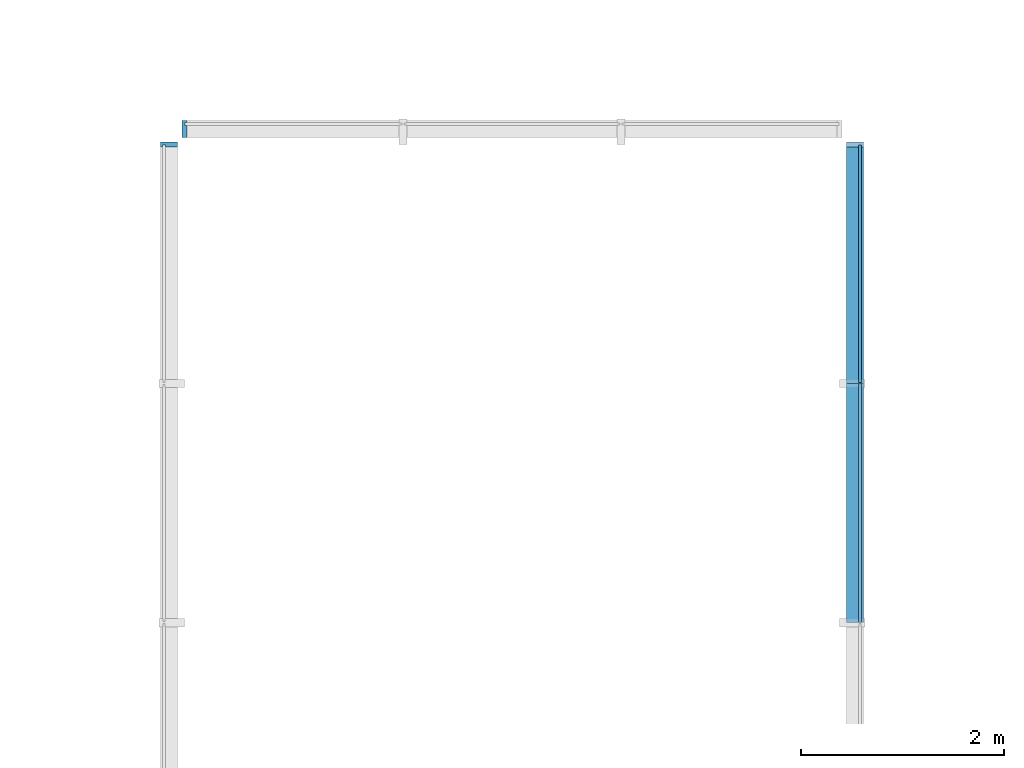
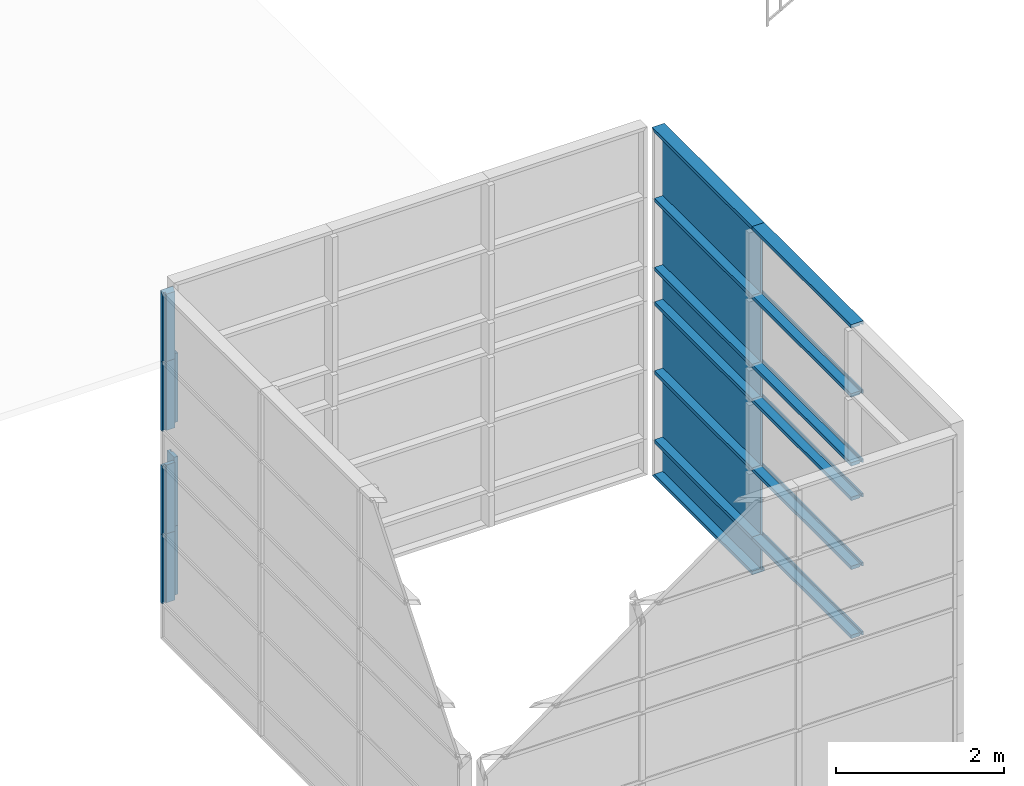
# One storey, part 8 of 19: 26 building element parts, 3 elements without a shape of their own.
"""IFC4 building model written with IfcOpenShell, lengths in millimetres."""

from ifc_helpers import new_model, entity, si_unit, converted_unit, derived_unit, direction, frame, origin_with_axes, place, context, subcontext, project, spatial, triangles, material, element, aggregate, save


model = new_model("IFC4")

# Units and contexts
model_context = context("Model", 3, precision=1e-05, world=origin_with_axes(), true_north=direction((0.0, 1.0)))
body_context = subcontext(model_context, "Body", "Model", "MODEL_VIEW")
ifc_project = project(units=[si_unit("LENGTHUNIT", "METRE", prefix="MILLI"), si_unit("AREAUNIT", "SQUARE_METRE"), si_unit("VOLUMEUNIT", "CUBIC_METRE"), converted_unit("PLANEANGLEUNIT", "DEGREE", entity("IfcLengthMeasure", 0.017453), si_unit("PLANEANGLEUNIT", "RADIAN"), dimensions=[0, 0, 0, 0, 0, 0, 0]), si_unit("SOLIDANGLEUNIT", "STERADIAN"), si_unit("MASSUNIT", "GRAM"), si_unit("TIMEUNIT", "SECOND"), si_unit("THERMODYNAMICTEMPERATUREUNIT", "DEGREE_CELSIUS"), si_unit("LUMINOUSINTENSITYUNIT", "LUMEN"), si_unit("POWERUNIT", "WATT"), derived_unit("THERMALTRANSMITTANCEUNIT", [(si_unit("POWERUNIT", "WATT"), 1), (si_unit("THERMODYNAMICTEMPERATUREUNIT", "KELVIN"), -1), (si_unit("AREAUNIT", "SQUARE_METRE"), -1)])], contexts=[model_context])

# Site, building, storey
site_placement = place(None, origin_with_axes())
site = spatial("IfcSite", under=ifc_project, at=site_placement, Name="Default Site", CompositionType="ELEMENT")
building_placement = place(site_placement, origin_with_axes())
building = spatial("IfcBuilding", under=site, at=building_placement, Name="Default Building", CompositionType="ELEMENT")
storey_placement = place(building_placement, frame((0.0, 0.0, 3000.0), z_axis=(0.0, 0.0, 1.0), x_axis=(1.0, 0.0, 0.0)))
storey = spatial("IfcBuildingStorey", under=building, at=storey_placement, Name="EG - Story", CompositionType="ELEMENT", Elevation=3000.0)

# Curtain wall, building element parts
curtain_wall_1_placement = place(storey_placement, origin_with_axes())
curtain_wall_1 = element("IfcCurtainWall", 1, at=curtain_wall_1_placement, inside=storey, Name="Fassade-011", PredefinedType="NOTDEFINED")
ifc_material_1 = material(Name="Blech")
building_element_part_1_placement = place(curtain_wall_1_placement, frame((69381.391327, -43896.324358, 0.0), z_axis=(0.0, 0.0, 1.0), x_axis=(1.0, 0.0, 0.0)))
building_element_part_1 = element("IfcBuildingElementPart", 2, at=building_element_part_1_placement, material=ifc_material_1, Name="Blech", PredefinedType="NOTDEFINED", context=body_context, shape_type="Tessellation", body=[
    triangles([(15.0, 1150.325, 1500.0), (133.0, 1150.325, 1500.0), (15.0, 1170.325, 1500.0), (133.0, 1200.325, 1500.0), (-14.999, 1170.325, 1500.0), (-34.999, 1200.325, 1500.0), (-14.999, 1150.325, 1500.0), (-34.999, 1150.325, 1500.0), (15.0, 1170.325, 500.0), (15.0, 1150.325, 500.0), (133.0, 1150.325, 500.0), (133.0, 1200.325, 500.0), (-34.999, 1200.325, 500.0), (-34.999, 1150.325, 500.0), (-14.999, 1150.325, 500.0), (-14.999, 1170.325, 500.0)], [[1, 2, 3], [3, 2, 4], [3, 4, 5], [5, 4, 6], [5, 6, 7], [7, 6, 8], [3, 9, 10], [3, 10, 1], [10, 11, 2], [10, 2, 1], [11, 12, 4], [11, 4, 2], [12, 13, 6], [12, 6, 4], [13, 14, 8], [13, 8, 6], [7, 8, 14], [7, 14, 15], [15, 16, 5], [15, 5, 7], [5, 16, 9], [5, 9, 3], [10, 11, 9], [9, 11, 12], [9, 12, 16], [16, 12, 13], [16, 13, 15], [15, 13, 14]], closed=False),
])
building_element_part_2_placement = place(curtain_wall_1_placement, frame((69381.391327, -43896.324358, 0.0), z_axis=(0.0, 0.0, 1.0), x_axis=(1.0, 0.0, 0.0)))
building_element_part_2 = element("IfcBuildingElementPart", 3, at=building_element_part_2_placement, material=ifc_material_1, Name="Blech", PredefinedType="NOTDEFINED", context=body_context, shape_type="Tessellation", body=[
    triangles([(15.0, 1150.325, 2500.0), (133.0, 1150.325, 2500.0), (15.0, 1170.325, 2500.0), (133.0, 1200.325, 2500.0), (-14.999, 1170.325, 2500.0), (-34.999, 1200.325, 2500.0), (-14.999, 1150.325, 2500.0), (-34.999, 1150.325, 2500.0), (15.0, 1170.325, 1500.0), (15.0, 1150.325, 1500.0), (133.0, 1150.325, 1500.0), (133.0, 1200.325, 1500.0), (-34.999, 1200.325, 1500.0), (-34.999, 1150.325, 1500.0), (-14.999, 1150.325, 1500.0), (-14.999, 1170.325, 1500.0)], [[1, 2, 3], [3, 2, 4], [3, 4, 5], [5, 4, 6], [5, 6, 7], [7, 6, 8], [3, 9, 10], [3, 10, 1], [10, 11, 2], [10, 2, 1], [11, 12, 4], [11, 4, 2], [12, 13, 6], [12, 6, 4], [13, 14, 8], [13, 8, 6], [7, 8, 14], [7, 14, 15], [15, 16, 5], [15, 5, 7], [5, 16, 9], [5, 9, 3], [10, 11, 9], [9, 11, 12], [9, 12, 16], [16, 12, 13], [16, 13, 15], [15, 13, 14]], closed=False),
])
building_element_part_3_placement = place(curtain_wall_1_placement, frame((69381.391327, -43896.324358, 0.0), z_axis=(0.0, 0.0, 1.0), x_axis=(1.0, 0.0, 0.0)))
building_element_part_3 = element("IfcBuildingElementPart", 4, at=building_element_part_3_placement, material=ifc_material_1, Name="Blech", PredefinedType="NOTDEFINED", context=body_context, shape_type="Tessellation", body=[
    triangles([(15.0, 1150.325, 4000.0), (133.0, 1150.325, 4000.0), (15.0, 1170.325, 4000.0), (133.0, 1200.325, 4000.0), (-14.999, 1170.325, 4000.0), (-34.999, 1200.325, 4000.0), (-14.999, 1150.325, 4000.0), (-34.999, 1150.325, 4000.0), (15.0, 1170.325, 3000.0), (15.0, 1150.325, 3000.0), (133.0, 1150.325, 3000.0), (133.0, 1200.325, 3000.0), (-34.999, 1200.325, 3000.0), (-34.999, 1150.325, 3000.0), (-14.999, 1150.325, 3000.0), (-14.999, 1170.325, 3000.0)], [[1, 2, 3], [3, 2, 4], [3, 4, 5], [5, 4, 6], [5, 6, 7], [7, 6, 8], [3, 9, 10], [3, 10, 1], [10, 11, 2], [10, 2, 1], [11, 12, 4], [11, 4, 2], [12, 13, 6], [12, 6, 4], [13, 14, 8], [13, 8, 6], [7, 8, 14], [7, 14, 15], [15, 16, 5], [15, 5, 7], [5, 16, 9], [5, 9, 3], [10, 11, 9], [9, 11, 12], [9, 12, 16], [16, 12, 13], [16, 13, 15], [15, 13, 14]], closed=False),
])
building_element_part_4_placement = place(curtain_wall_1_placement, frame((69381.391327, -43896.324358, 0.0), z_axis=(0.0, 0.0, 1.0), x_axis=(1.0, 0.0, 0.0)))
building_element_part_4 = element("IfcBuildingElementPart", 5, at=building_element_part_4_placement, material=ifc_material_1, Name="Blech", PredefinedType="NOTDEFINED", context=body_context, shape_type="Tessellation", body=[
    triangles([(-14.999, 1170.325, 4995.0), (15.0, 1170.325, 4995.0), (133.0, 1200.325, 5025.0), (-34.999, 1200.325, 5025.0), (-34.999, 1150.325, 4975.0), (-14.999, 1150.325, 4975.0), (15.0, 1150.325, 4975.0), (133.0, 1150.325, 4975.0), (15.0, 1170.325, 4000.0), (15.0, 1150.325, 4000.0), (133.0, 1150.325, 4000.0), (133.0, 1200.325, 4000.0), (-34.999, 1200.325, 4000.0), (-34.999, 1150.325, 4000.0), (-14.999, 1150.325, 4000.0), (-14.999, 1170.325, 4000.0)], [[1, 2, 3], [1, 3, 4], [1, 4, 5], [1, 5, 6], [7, 8, 3], [7, 3, 2], [2, 9, 10], [2, 10, 7], [10, 11, 8], [10, 8, 7], [11, 12, 3], [11, 3, 8], [12, 13, 4], [12, 4, 3], [13, 14, 5], [13, 5, 4], [6, 5, 14], [6, 14, 15], [15, 16, 1], [15, 1, 6], [1, 16, 9], [1, 9, 2], [10, 11, 9], [9, 11, 12], [9, 12, 16], [16, 12, 13], [16, 13, 15], [15, 13, 14]], closed=False),
])
aggregate(curtain_wall_1, [building_element_part_1, building_element_part_2, building_element_part_3, building_element_part_4])

curtain_wall_2_placement = place(storey_placement, origin_with_axes())
curtain_wall_2 = element("IfcCurtainWall", 6, at=curtain_wall_2_placement, inside=storey, Name="Fassade-008", PredefinedType="NOTDEFINED")
ifc_material_2 = material(Name="Normalglas")
building_element_part_5_placement = place(curtain_wall_2_placement, frame((76219.438321, -43896.324358, 0.0), z_axis=(0.0, 0.0, 1.0), x_axis=(1.0, 0.0, 0.0)))
building_element_part_5 = element("IfcBuildingElementPart", 7, at=building_element_part_5_placement, material=ifc_material_2, Name="Normalglas", PredefinedType="NOTDEFINED", context=body_context, shape_type="Tessellation", body=[
    triangles([(-14.999, -1165.324, 495.0), (15.0, -1165.324, 495.0), (15.0, 1170.325, 495.0), (-14.999, 1170.325, 495.0), (-14.999, -1165.324, 5.0), (15.0, -1165.324, 5.0), (15.0, 1170.325, 5.0), (-14.999, 1170.325, 5.0)], [[1, 2, 3], [1, 3, 4], [5, 6, 2], [5, 2, 1], [2, 6, 7], [2, 7, 3], [4, 3, 7], [4, 7, 8], [1, 4, 8], [1, 8, 5], [8, 7, 6], [8, 6, 5]], closed=False),
])
building_element_part_6_placement = place(curtain_wall_2_placement, frame((76219.438321, -43896.324358, 0.0), z_axis=(0.0, 0.0, 1.0), x_axis=(1.0, 0.0, 0.0)))
building_element_part_6 = element("IfcBuildingElementPart", 8, at=building_element_part_6_placement, material=ifc_material_2, Name="Normalglas", PredefinedType="NOTDEFINED", context=body_context, shape_type="Tessellation", body=[
    triangles([(-14.999, -1165.324, 1495.0), (15.0, -1165.324, 1495.0), (15.0, 1170.325, 1495.0), (-14.999, 1170.325, 1495.0), (-14.999, -1165.324, 505.0), (15.0, -1165.324, 505.0), (15.0, 1170.325, 505.0), (-14.999, 1170.325, 505.0)], [[1, 2, 3], [1, 3, 4], [5, 6, 2], [5, 2, 1], [2, 6, 7], [2, 7, 3], [4, 3, 7], [4, 7, 8], [1, 4, 8], [1, 8, 5], [8, 7, 6], [8, 6, 5]], closed=False),
])
building_element_part_7_placement = place(curtain_wall_2_placement, frame((76219.438321, -43896.324358, 0.0), z_axis=(0.0, 0.0, 1.0), x_axis=(1.0, 0.0, 0.0)))
building_element_part_7 = element("IfcBuildingElementPart", 9, at=building_element_part_7_placement, material=ifc_material_2, Name="Normalglas", PredefinedType="NOTDEFINED", context=body_context, shape_type="Tessellation", body=[
    triangles([(-14.999, -1165.324, 2495.0), (15.0, -1165.324, 2495.0), (15.0, 1170.325, 2495.0), (-14.999, 1170.325, 2495.0), (-14.999, -1165.324, 1505.0), (15.0, -1165.324, 1505.0), (15.0, 1170.325, 1505.0), (-14.999, 1170.325, 1505.0)], [[1, 2, 3], [1, 3, 4], [5, 6, 2], [5, 2, 1], [2, 6, 7], [2, 7, 3], [4, 3, 7], [4, 7, 8], [1, 4, 8], [1, 8, 5], [8, 7, 6], [8, 6, 5]], closed=False),
])
building_element_part_8_placement = place(curtain_wall_2_placement, frame((76219.438321, -43896.324358, 0.0), z_axis=(0.0, 0.0, 1.0), x_axis=(1.0, 0.0, 0.0)))
building_element_part_8 = element("IfcBuildingElementPart", 10, at=building_element_part_8_placement, material=ifc_material_2, Name="Normalglas", PredefinedType="NOTDEFINED", context=body_context, shape_type="Tessellation", body=[
    triangles([(-14.999, -1165.324, 2995.0), (15.0, -1165.324, 2995.0), (15.0, 1170.325, 2995.0), (-14.999, 1170.325, 2995.0), (-14.999, -1165.324, 2505.0), (15.0, -1165.324, 2505.0), (15.0, 1170.325, 2505.0), (-14.999, 1170.325, 2505.0)], [[1, 2, 3], [1, 3, 4], [5, 6, 2], [5, 2, 1], [2, 6, 7], [2, 7, 3], [4, 3, 7], [4, 7, 8], [1, 4, 8], [1, 8, 5], [8, 7, 6], [8, 6, 5]], closed=False),
])
building_element_part_9_placement = place(curtain_wall_2_placement, frame((76219.438321, -43896.324358, 0.0), z_axis=(0.0, 0.0, 1.0), x_axis=(1.0, 0.0, 0.0)))
building_element_part_9 = element("IfcBuildingElementPart", 11, at=building_element_part_9_placement, material=ifc_material_2, Name="Normalglas", PredefinedType="NOTDEFINED", context=body_context, shape_type="Tessellation", body=[
    triangles([(-14.999, -1165.324, 3995.0), (15.0, -1165.324, 3995.0), (15.0, 1170.325, 3995.0), (-14.999, 1170.325, 3995.0), (-14.999, -1165.324, 3005.0), (15.0, -1165.324, 3005.0), (15.0, 1170.325, 3005.0), (-14.999, 1170.325, 3005.0)], [[1, 2, 3], [1, 3, 4], [5, 6, 2], [5, 2, 1], [2, 6, 7], [2, 7, 3], [4, 3, 7], [4, 7, 8], [1, 4, 8], [1, 8, 5], [8, 7, 6], [8, 6, 5]], closed=False),
])
building_element_part_10_placement = place(curtain_wall_2_placement, frame((76219.438321, -43896.324358, 0.0), z_axis=(0.0, 0.0, 1.0), x_axis=(1.0, 0.0, 0.0)))
building_element_part_10 = element("IfcBuildingElementPart", 12, at=building_element_part_10_placement, material=ifc_material_2, Name="Normalglas", PredefinedType="NOTDEFINED", context=body_context, shape_type="Tessellation", body=[
    triangles([(-14.999, -1165.324, 4995.0), (15.0, -1165.324, 4995.0), (15.0, 1170.325, 4995.0), (-14.999, 1170.325, 4995.0), (-14.999, -1165.324, 4005.0), (15.0, -1165.324, 4005.0), (15.0, 1170.325, 4005.0), (-14.999, 1170.325, 4005.0)], [[1, 2, 3], [1, 3, 4], [5, 6, 2], [5, 2, 1], [2, 6, 7], [2, 7, 3], [4, 3, 7], [4, 7, 8], [1, 4, 8], [1, 8, 5], [8, 7, 6], [8, 6, 5]], closed=False),
])
building_element_part_11_placement = place(curtain_wall_2_placement, frame((76219.438321, -43896.324358, 0.0), z_axis=(0.0, 0.0, 1.0), x_axis=(1.0, 0.0, 0.0)))
building_element_part_11 = element("IfcBuildingElementPart", 13, at=building_element_part_11_placement, material=ifc_material_1, Name="Blech", PredefinedType="NOTDEFINED", context=body_context, shape_type="Tessellation", body=[
    triangles([(-14.999, -1175.324, 25.0), (-132.999, -1175.324, 25.0), (-14.999, -1175.324, 5.0), (-132.999, -1175.324, -24.999), (15.0, -1175.324, 5.0), (35.0, -1175.324, -24.999), (35.0, -1175.324, 25.0), (15.0, -1175.324, 25.0), (-14.999, 1170.325, 5.0), (-14.999, 1150.325, 25.0), (-132.999, 1150.325, 25.0), (-132.999, 1200.325, -24.999), (35.0, 1200.325, -24.999), (35.0, 1150.325, 25.0), (15.0, 1150.325, 25.0), (15.0, 1170.325, 5.0)], [[1, 2, 3], [3, 2, 4], [3, 4, 5], [5, 4, 6], [5, 6, 7], [5, 7, 8], [3, 9, 10], [3, 10, 1], [10, 11, 2], [10, 2, 1], [2, 11, 12], [2, 12, 4], [4, 12, 13], [4, 13, 6], [6, 13, 14], [6, 14, 7], [8, 7, 14], [8, 14, 15], [15, 16, 5], [15, 5, 8], [5, 16, 9], [5, 9, 3], [16, 9, 12], [16, 12, 13], [16, 13, 14], [16, 14, 15], [11, 12, 9], [11, 9, 10]], closed=False),
])
building_element_part_12_placement = place(curtain_wall_2_placement, frame((76219.438321, -43896.324358, 0.0), z_axis=(0.0, 0.0, 1.0), x_axis=(1.0, 0.0, 0.0)))
building_element_part_12 = element("IfcBuildingElementPart", 14, at=building_element_part_12_placement, material=ifc_material_1, Name="Blech", PredefinedType="NOTDEFINED", context=body_context, shape_type="Tessellation", body=[
    triangles([(15.0, -1175.324, 525.0), (35.0, -1175.324, 525.0), (15.0, -1175.324, 505.0), (15.0, -1175.324, 495.0), (-14.999, -1175.324, 505.0), (-132.999, -1175.324, 525.0), (-14.999, -1175.324, 525.0), (35.0, -1175.324, 475.0), (15.0, -1175.324, 475.0), (-14.999, -1175.324, 495.0), (-14.999, -1175.324, 475.0), (-132.999, -1175.324, 475.0), (-14.999, 1150.325, 495.0), (15.0, 1150.325, 495.0), (15.0, 1150.325, 475.0), (35.0, 1150.325, 475.0), (35.0, 1150.325, 525.0), (15.0, 1150.325, 525.0), (15.0, 1150.325, 505.0), (-14.999, 1150.325, 505.0), (-14.999, 1150.325, 525.0), (-132.999, 1150.325, 525.0), (-132.999, 1150.325, 475.0), (-14.999, 1150.325, 475.0)], [[1, 2, 3], [3, 2, 4], [3, 4, 5], [5, 4, 6], [5, 6, 7], [8, 9, 4], [8, 4, 2], [6, 4, 10], [6, 10, 11], [6, 11, 12], [10, 13, 14], [10, 14, 4], [4, 14, 15], [4, 15, 9], [15, 16, 8], [15, 8, 9], [2, 8, 16], [2, 16, 17], [18, 1, 2], [18, 2, 17], [1, 18, 19], [1, 19, 3], [5, 3, 19], [5, 19, 20], [7, 5, 20], [7, 20, 21], [7, 21, 22], [7, 22, 6], [12, 6, 22], [12, 22, 23], [11, 12, 23], [11, 23, 24], [11, 24, 13], [11, 13, 10], [21, 22, 20], [20, 22, 13], [20, 13, 19], [19, 13, 14], [19, 14, 17], [17, 14, 15], [17, 15, 16], [23, 24, 13], [23, 13, 22], [19, 17, 18]], closed=False),
])
building_element_part_13_placement = place(curtain_wall_2_placement, frame((76219.438321, -43896.324358, 0.0), z_axis=(0.0, 0.0, 1.0), x_axis=(1.0, 0.0, 0.0)))
building_element_part_13 = element("IfcBuildingElementPart", 15, at=building_element_part_13_placement, material=ifc_material_1, Name="Blech", PredefinedType="NOTDEFINED", context=body_context, shape_type="Tessellation", body=[
    triangles([(15.0, -3525.973, 525.0), (35.0, -3525.973, 525.0), (15.0, -3525.973, 505.0), (15.0, -3525.973, 495.0), (-14.999, -3525.973, 505.0), (-132.999, -3525.973, 525.0), (-14.999, -3525.973, 525.0), (35.0, -3525.973, 475.0), (15.0, -3525.973, 475.0), (-14.999, -3525.973, 495.0), (-14.999, -3525.973, 475.0), (-132.999, -3525.973, 475.0), (-14.999, -1175.324, 495.0), (15.0, -1175.324, 495.0), (15.0, -1175.324, 475.0), (35.0, -1175.324, 475.0), (35.0, -1175.324, 525.0), (15.0, -1175.324, 525.0), (15.0, -1175.324, 505.0), (-14.999, -1175.324, 505.0), (-14.999, -1175.324, 525.0), (-132.999, -1175.324, 525.0), (-132.999, -1175.324, 475.0), (-14.999, -1175.324, 475.0)], [[1, 2, 3], [3, 2, 4], [3, 4, 5], [5, 4, 6], [5, 6, 7], [8, 9, 4], [8, 4, 2], [6, 4, 10], [6, 10, 11], [6, 11, 12], [10, 13, 14], [10, 14, 4], [4, 14, 15], [4, 15, 9], [15, 16, 8], [15, 8, 9], [8, 16, 17], [8, 17, 2], [18, 1, 2], [18, 2, 17], [1, 18, 19], [1, 19, 3], [5, 3, 19], [5, 19, 20], [7, 5, 20], [7, 20, 21], [7, 21, 22], [7, 22, 6], [6, 22, 23], [6, 23, 12], [11, 12, 23], [11, 23, 24], [11, 24, 13], [11, 13, 10], [21, 22, 20], [20, 22, 13], [20, 13, 19], [19, 13, 14], [19, 14, 17], [17, 14, 15], [17, 15, 16], [23, 24, 13], [23, 13, 22], [19, 17, 18]], closed=False),
])
building_element_part_14_placement = place(curtain_wall_2_placement, frame((76219.438321, -43896.324358, 0.0), z_axis=(0.0, 0.0, 1.0), x_axis=(1.0, 0.0, 0.0)))
building_element_part_14 = element("IfcBuildingElementPart", 16, at=building_element_part_14_placement, material=ifc_material_1, Name="Blech", PredefinedType="NOTDEFINED", context=body_context, shape_type="Tessellation", body=[
    triangles([(15.0, -1175.324, 1525.0), (35.0, -1175.324, 1525.0), (15.0, -1175.324, 1505.0), (15.0, -1175.324, 1495.0), (-14.999, -1175.324, 1505.0), (-132.999, -1175.324, 1525.0), (-14.999, -1175.324, 1525.0), (35.0, -1175.324, 1475.0), (15.0, -1175.324, 1475.0), (-14.999, -1175.324, 1495.0), (-14.999, -1175.324, 1475.0), (-132.999, -1175.324, 1475.0), (-14.999, 1150.325, 1495.0), (15.0, 1150.325, 1495.0), (15.0, 1150.325, 1475.0), (35.0, 1150.325, 1475.0), (35.0, 1150.325, 1525.0), (15.0, 1150.325, 1525.0), (15.0, 1150.325, 1505.0), (-14.999, 1150.325, 1505.0), (-14.999, 1150.325, 1525.0), (-132.999, 1150.325, 1525.0), (-132.999, 1150.325, 1475.0), (-14.999, 1150.325, 1475.0)], [[1, 2, 3], [3, 2, 4], [3, 4, 5], [5, 4, 6], [5, 6, 7], [8, 9, 4], [8, 4, 2], [6, 4, 10], [6, 10, 11], [6, 11, 12], [10, 13, 14], [10, 14, 4], [4, 14, 15], [4, 15, 9], [15, 16, 8], [15, 8, 9], [2, 8, 16], [2, 16, 17], [18, 1, 2], [18, 2, 17], [1, 18, 19], [1, 19, 3], [5, 3, 19], [5, 19, 20], [7, 5, 20], [7, 20, 21], [7, 21, 22], [7, 22, 6], [12, 6, 22], [12, 22, 23], [11, 12, 23], [11, 23, 24], [11, 24, 13], [11, 13, 10], [21, 22, 20], [20, 22, 13], [20, 13, 19], [19, 13, 14], [19, 14, 17], [17, 14, 15], [17, 15, 16], [23, 24, 13], [23, 13, 22], [19, 17, 18]], closed=False),
])
building_element_part_15_placement = place(curtain_wall_2_placement, frame((76219.438321, -43896.324358, 0.0), z_axis=(0.0, 0.0, 1.0), x_axis=(1.0, 0.0, 0.0)))
building_element_part_15 = element("IfcBuildingElementPart", 17, at=building_element_part_15_placement, material=ifc_material_1, Name="Blech", PredefinedType="NOTDEFINED", context=body_context, shape_type="Tessellation", body=[
    triangles([(15.0, -1175.324, 2525.0), (35.0, -1175.324, 2525.0), (15.0, -1175.324, 2505.0), (15.0, -1175.324, 2495.0), (-14.999, -1175.324, 2505.0), (-132.999, -1175.324, 2525.0), (-14.999, -1175.324, 2525.0), (35.0, -1175.324, 2475.0), (15.0, -1175.324, 2475.0), (-14.999, -1175.324, 2495.0), (-14.999, -1175.324, 2475.0), (-132.999, -1175.324, 2475.0), (-14.999, 1150.325, 2495.0), (15.0, 1150.325, 2495.0), (15.0, 1150.325, 2475.0), (35.0, 1150.325, 2475.0), (35.0, 1150.325, 2525.0), (15.0, 1150.325, 2525.0), (15.0, 1150.325, 2505.0), (-14.999, 1150.325, 2505.0), (-14.999, 1150.325, 2525.0), (-132.999, 1150.325, 2525.0), (-132.999, 1150.325, 2475.0), (-14.999, 1150.325, 2475.0)], [[1, 2, 3], [3, 2, 4], [3, 4, 5], [5, 4, 6], [5, 6, 7], [8, 9, 4], [8, 4, 2], [6, 4, 10], [6, 10, 11], [6, 11, 12], [10, 13, 14], [10, 14, 4], [4, 14, 15], [4, 15, 9], [15, 16, 8], [15, 8, 9], [2, 8, 16], [2, 16, 17], [18, 1, 2], [18, 2, 17], [1, 18, 19], [1, 19, 3], [5, 3, 19], [5, 19, 20], [7, 5, 20], [7, 20, 21], [7, 21, 22], [7, 22, 6], [12, 6, 22], [12, 22, 23], [11, 12, 23], [11, 23, 24], [11, 24, 13], [11, 13, 10], [21, 22, 20], [20, 22, 13], [20, 13, 19], [19, 13, 14], [19, 14, 17], [17, 14, 15], [17, 15, 16], [23, 24, 13], [23, 13, 22], [19, 17, 18]], closed=False),
])
building_element_part_16_placement = place(curtain_wall_2_placement, frame((76219.438321, -43896.324358, 0.0), z_axis=(0.0, 0.0, 1.0), x_axis=(1.0, 0.0, 0.0)))
building_element_part_16 = element("IfcBuildingElementPart", 18, at=building_element_part_16_placement, material=ifc_material_1, Name="Blech", PredefinedType="NOTDEFINED", context=body_context, shape_type="Tessellation", body=[
    triangles([(15.0, -3525.973, 1525.0), (35.0, -3525.973, 1525.0), (15.0, -3525.973, 1505.0), (15.0, -3525.973, 1495.0), (-14.999, -3525.973, 1505.0), (-132.999, -3525.973, 1525.0), (-14.999, -3525.973, 1525.0), (35.0, -3525.973, 1475.0), (15.0, -3525.973, 1475.0), (-14.999, -3525.973, 1495.0), (-14.999, -3525.973, 1475.0), (-132.999, -3525.973, 1475.0), (-14.999, -1175.324, 1495.0), (15.0, -1175.324, 1495.0), (15.0, -1175.324, 1475.0), (35.0, -1175.324, 1475.0), (35.0, -1175.324, 1525.0), (15.0, -1175.324, 1525.0), (15.0, -1175.324, 1505.0), (-14.999, -1175.324, 1505.0), (-14.999, -1175.324, 1525.0), (-132.999, -1175.324, 1525.0), (-132.999, -1175.324, 1475.0), (-14.999, -1175.324, 1475.0)], [[1, 2, 3], [3, 2, 4], [3, 4, 5], [5, 4, 6], [5, 6, 7], [8, 9, 4], [8, 4, 2], [6, 4, 10], [6, 10, 11], [6, 11, 12], [10, 13, 14], [10, 14, 4], [4, 14, 15], [4, 15, 9], [15, 16, 8], [15, 8, 9], [8, 16, 17], [8, 17, 2], [18, 1, 2], [18, 2, 17], [1, 18, 19], [1, 19, 3], [5, 3, 19], [5, 19, 20], [7, 5, 20], [7, 20, 21], [7, 21, 22], [7, 22, 6], [6, 22, 23], [6, 23, 12], [11, 12, 23], [11, 23, 24], [11, 24, 13], [11, 13, 10], [21, 22, 20], [20, 22, 13], [20, 13, 19], [19, 13, 14], [19, 14, 17], [17, 14, 15], [17, 15, 16], [23, 24, 13], [23, 13, 22], [19, 17, 18]], closed=False),
])
building_element_part_17_placement = place(curtain_wall_2_placement, frame((76219.438321, -43896.324358, 0.0), z_axis=(0.0, 0.0, 1.0), x_axis=(1.0, 0.0, 0.0)))
building_element_part_17 = element("IfcBuildingElementPart", 19, at=building_element_part_17_placement, material=ifc_material_1, Name="Blech", PredefinedType="NOTDEFINED", context=body_context, shape_type="Tessellation", body=[
    triangles([(15.0, -3525.973, 2525.0), (35.0, -3525.973, 2525.0), (15.0, -3525.973, 2505.0), (15.0, -3525.973, 2495.0), (-14.999, -3525.973, 2505.0), (-132.999, -3525.973, 2525.0), (-14.999, -3525.973, 2525.0), (35.0, -3525.973, 2475.0), (15.0, -3525.973, 2475.0), (-14.999, -3525.973, 2495.0), (-14.999, -3525.973, 2475.0), (-132.999, -3525.973, 2475.0), (-14.999, -1175.324, 2495.0), (15.0, -1175.324, 2495.0), (15.0, -1175.324, 2475.0), (35.0, -1175.324, 2475.0), (35.0, -1175.324, 2525.0), (15.0, -1175.324, 2525.0), (15.0, -1175.324, 2505.0), (-14.999, -1175.324, 2505.0), (-14.999, -1175.324, 2525.0), (-132.999, -1175.324, 2525.0), (-132.999, -1175.324, 2475.0), (-14.999, -1175.324, 2475.0)], [[1, 2, 3], [3, 2, 4], [3, 4, 5], [5, 4, 6], [5, 6, 7], [8, 9, 4], [8, 4, 2], [6, 4, 10], [6, 10, 11], [6, 11, 12], [10, 13, 14], [10, 14, 4], [4, 14, 15], [4, 15, 9], [15, 16, 8], [15, 8, 9], [8, 16, 17], [8, 17, 2], [18, 1, 2], [18, 2, 17], [1, 18, 19], [1, 19, 3], [5, 3, 19], [5, 19, 20], [7, 5, 20], [7, 20, 21], [7, 21, 22], [7, 22, 6], [6, 22, 23], [6, 23, 12], [11, 12, 23], [11, 23, 24], [11, 24, 13], [11, 13, 10], [21, 22, 20], [20, 22, 13], [20, 13, 19], [19, 13, 14], [19, 14, 17], [17, 14, 15], [17, 15, 16], [23, 24, 13], [23, 13, 22], [19, 17, 18]], closed=False),
])
building_element_part_18_placement = place(curtain_wall_2_placement, frame((76219.438321, -43896.324358, 0.0), z_axis=(0.0, 0.0, 1.0), x_axis=(1.0, 0.0, 0.0)))
building_element_part_18 = element("IfcBuildingElementPart", 20, at=building_element_part_18_placement, material=ifc_material_1, Name="Blech", PredefinedType="NOTDEFINED", context=body_context, shape_type="Tessellation", body=[
    triangles([(15.0, -1175.324, 3025.0), (35.0, -1175.324, 3025.0), (15.0, -1175.324, 3005.0), (15.0, -1175.324, 2995.0), (-14.999, -1175.324, 3005.0), (-132.999, -1175.324, 3025.0), (-14.999, -1175.324, 3025.0), (35.0, -1175.324, 2975.0), (15.0, -1175.324, 2975.0), (-14.999, -1175.324, 2995.0), (-14.999, -1175.324, 2975.0), (-132.999, -1175.324, 2975.0), (-14.999, 1150.325, 2995.0), (15.0, 1150.325, 2995.0), (15.0, 1150.325, 2975.0), (35.0, 1150.325, 2975.0), (35.0, 1150.325, 3025.0), (15.0, 1150.325, 3025.0), (15.0, 1150.325, 3005.0), (-14.999, 1150.325, 3005.0), (-14.999, 1150.325, 3025.0), (-132.999, 1150.325, 3025.0), (-132.999, 1150.325, 2975.0), (-14.999, 1150.325, 2975.0)], [[1, 2, 3], [3, 2, 4], [3, 4, 5], [5, 4, 6], [5, 6, 7], [8, 9, 4], [8, 4, 2], [6, 4, 10], [6, 10, 11], [6, 11, 12], [10, 13, 14], [10, 14, 4], [4, 14, 15], [4, 15, 9], [15, 16, 8], [15, 8, 9], [2, 8, 16], [2, 16, 17], [18, 1, 2], [18, 2, 17], [1, 18, 19], [1, 19, 3], [5, 3, 19], [5, 19, 20], [7, 5, 20], [7, 20, 21], [7, 21, 22], [7, 22, 6], [12, 6, 22], [12, 22, 23], [11, 12, 23], [11, 23, 24], [11, 24, 13], [11, 13, 10], [21, 22, 20], [20, 22, 13], [20, 13, 19], [19, 13, 14], [19, 14, 17], [17, 14, 15], [17, 15, 16], [23, 24, 13], [23, 13, 22], [19, 17, 18]], closed=False),
])
building_element_part_19_placement = place(curtain_wall_2_placement, frame((76219.438321, -43896.324358, 0.0), z_axis=(0.0, 0.0, 1.0), x_axis=(1.0, 0.0, 0.0)))
building_element_part_19 = element("IfcBuildingElementPart", 21, at=building_element_part_19_placement, material=ifc_material_1, Name="Blech", PredefinedType="NOTDEFINED", context=body_context, shape_type="Tessellation", body=[
    triangles([(15.0, -3525.973, 3025.0), (35.0, -3525.973, 3025.0), (15.0, -3525.973, 3005.0), (15.0, -3525.973, 2995.0), (-14.999, -3525.973, 3005.0), (-132.999, -3525.973, 3025.0), (-14.999, -3525.973, 3025.0), (35.0, -3525.973, 2975.0), (15.0, -3525.973, 2975.0), (-14.999, -3525.973, 2995.0), (-14.999, -3525.973, 2975.0), (-132.999, -3525.973, 2975.0), (-14.999, -1175.324, 2995.0), (15.0, -1175.324, 2995.0), (15.0, -1175.324, 2975.0), (35.0, -1175.324, 2975.0), (35.0, -1175.324, 3025.0), (15.0, -1175.324, 3025.0), (15.0, -1175.324, 3005.0), (-14.999, -1175.324, 3005.0), (-14.999, -1175.324, 3025.0), (-132.999, -1175.324, 3025.0), (-132.999, -1175.324, 2975.0), (-14.999, -1175.324, 2975.0)], [[1, 2, 3], [3, 2, 4], [3, 4, 5], [5, 4, 6], [5, 6, 7], [8, 9, 4], [8, 4, 2], [6, 4, 10], [6, 10, 11], [6, 11, 12], [10, 13, 14], [10, 14, 4], [4, 14, 15], [4, 15, 9], [15, 16, 8], [15, 8, 9], [8, 16, 17], [8, 17, 2], [18, 1, 2], [18, 2, 17], [1, 18, 19], [1, 19, 3], [5, 3, 19], [5, 19, 20], [7, 5, 20], [7, 20, 21], [7, 21, 22], [7, 22, 6], [6, 22, 23], [6, 23, 12], [11, 12, 23], [11, 23, 24], [11, 24, 13], [11, 13, 10], [21, 22, 20], [20, 22, 13], [20, 13, 19], [19, 13, 14], [19, 14, 17], [17, 14, 15], [17, 15, 16], [23, 24, 13], [23, 13, 22], [19, 17, 18]], closed=False),
])
building_element_part_20_placement = place(curtain_wall_2_placement, frame((76219.438321, -43896.324358, 0.0), z_axis=(0.0, 0.0, 1.0), x_axis=(1.0, 0.0, 0.0)))
building_element_part_20 = element("IfcBuildingElementPart", 22, at=building_element_part_20_placement, material=ifc_material_1, Name="Blech", PredefinedType="NOTDEFINED", context=body_context, shape_type="Tessellation", body=[
    triangles([(15.0, -1175.324, 4025.0), (35.0, -1175.324, 4025.0), (15.0, -1175.324, 4005.0), (15.0, -1175.324, 3995.0), (-14.999, -1175.324, 4005.0), (-132.999, -1175.324, 4025.0), (-14.999, -1175.324, 4025.0), (35.0, -1175.324, 3975.0), (15.0, -1175.324, 3975.0), (-14.999, -1175.324, 3995.0), (-14.999, -1175.324, 3975.0), (-132.999, -1175.324, 3975.0), (-14.999, 1150.325, 3995.0), (15.0, 1150.325, 3995.0), (15.0, 1150.325, 3975.0), (35.0, 1150.325, 3975.0), (35.0, 1150.325, 4025.0), (15.0, 1150.325, 4025.0), (15.0, 1150.325, 4005.0), (-14.999, 1150.325, 4005.0), (-14.999, 1150.325, 4025.0), (-132.999, 1150.325, 4025.0), (-132.999, 1150.325, 3975.0), (-14.999, 1150.325, 3975.0)], [[1, 2, 3], [3, 2, 4], [3, 4, 5], [5, 4, 6], [5, 6, 7], [8, 9, 4], [8, 4, 2], [6, 4, 10], [6, 10, 11], [6, 11, 12], [10, 13, 14], [10, 14, 4], [4, 14, 15], [4, 15, 9], [15, 16, 8], [15, 8, 9], [2, 8, 16], [2, 16, 17], [18, 1, 2], [18, 2, 17], [1, 18, 19], [1, 19, 3], [5, 3, 19], [5, 19, 20], [7, 5, 20], [7, 20, 21], [7, 21, 22], [7, 22, 6], [12, 6, 22], [12, 22, 23], [11, 12, 23], [11, 23, 24], [11, 24, 13], [11, 13, 10], [21, 22, 20], [20, 22, 13], [20, 13, 19], [19, 13, 14], [19, 14, 17], [17, 14, 15], [17, 15, 16], [23, 24, 13], [23, 13, 22], [19, 17, 18]], closed=False),
])
building_element_part_21_placement = place(curtain_wall_2_placement, frame((76219.438321, -43896.324358, 0.0), z_axis=(0.0, 0.0, 1.0), x_axis=(1.0, 0.0, 0.0)))
building_element_part_21 = element("IfcBuildingElementPart", 23, at=building_element_part_21_placement, material=ifc_material_1, Name="Blech", PredefinedType="NOTDEFINED", context=body_context, shape_type="Tessellation", body=[
    triangles([(15.0, -3525.973, 4025.0), (35.0, -3525.973, 4025.0), (15.0, -3525.973, 4005.0), (15.0, -3525.973, 3995.0), (-14.999, -3525.973, 4005.0), (-132.999, -3525.973, 4025.0), (-14.999, -3525.973, 4025.0), (35.0, -3525.973, 3975.0), (15.0, -3525.973, 3975.0), (-14.999, -3525.973, 3995.0), (-14.999, -3525.973, 3975.0), (-132.999, -3525.973, 3975.0), (-14.999, -1175.324, 3995.0), (15.0, -1175.324, 3995.0), (15.0, -1175.324, 3975.0), (35.0, -1175.324, 3975.0), (35.0, -1175.324, 4025.0), (15.0, -1175.324, 4025.0), (15.0, -1175.324, 4005.0), (-14.999, -1175.324, 4005.0), (-14.999, -1175.324, 4025.0), (-132.999, -1175.324, 4025.0), (-132.999, -1175.324, 3975.0), (-14.999, -1175.324, 3975.0)], [[1, 2, 3], [3, 2, 4], [3, 4, 5], [5, 4, 6], [5, 6, 7], [8, 9, 4], [8, 4, 2], [6, 4, 10], [6, 10, 11], [6, 11, 12], [10, 13, 14], [10, 14, 4], [4, 14, 15], [4, 15, 9], [15, 16, 8], [15, 8, 9], [8, 16, 17], [8, 17, 2], [18, 1, 2], [18, 2, 17], [1, 18, 19], [1, 19, 3], [5, 3, 19], [5, 19, 20], [7, 5, 20], [7, 20, 21], [7, 21, 22], [7, 22, 6], [6, 22, 23], [6, 23, 12], [11, 12, 23], [11, 23, 24], [11, 24, 13], [11, 13, 10], [21, 22, 20], [20, 22, 13], [20, 13, 19], [19, 13, 14], [19, 14, 17], [17, 14, 15], [17, 15, 16], [23, 24, 13], [23, 13, 22], [19, 17, 18]], closed=False),
])
building_element_part_22_placement = place(curtain_wall_2_placement, frame((76219.438321, -43896.324358, 0.0), z_axis=(0.0, 0.0, 1.0), x_axis=(1.0, 0.0, 0.0)))
building_element_part_22 = element("IfcBuildingElementPart", 24, at=building_element_part_22_placement, material=ifc_material_1, Name="Blech", PredefinedType="NOTDEFINED", context=body_context, shape_type="Tessellation", body=[
    triangles([(15.0, -1175.324, 4995.0), (-14.999, -1175.324, 4995.0), (-132.999, -1175.324, 5025.0), (35.0, -1175.324, 5025.0), (35.0, -1175.324, 4975.0), (15.0, -1175.324, 4975.0), (-14.999, -1175.324, 4975.0), (-132.999, -1175.324, 4975.0), (-14.999, 1170.325, 4995.0), (15.0, 1170.325, 4995.0), (15.0, 1150.325, 4975.0), (35.0, 1150.325, 4975.0), (35.0, 1200.325, 5025.0), (-132.999, 1200.325, 5025.0), (-132.999, 1150.325, 4975.0), (-14.999, 1150.325, 4975.0)], [[1, 2, 3], [1, 3, 4], [1, 4, 5], [1, 5, 6], [7, 8, 3], [7, 3, 2], [1, 2, 9], [1, 9, 10], [11, 6, 1], [11, 1, 10], [6, 11, 12], [6, 12, 5], [4, 5, 12], [4, 12, 13], [3, 4, 13], [3, 13, 14], [8, 3, 14], [8, 14, 15], [16, 7, 8], [16, 8, 15], [2, 7, 16], [2, 16, 9], [10, 9, 14], [10, 14, 13], [10, 13, 12], [10, 12, 11], [16, 15, 14], [16, 14, 9]], closed=False),
])
building_element_part_23_placement = place(curtain_wall_2_placement, frame((76219.438321, -43896.324358, 0.0), z_axis=(0.0, 0.0, 1.0), x_axis=(1.0, 0.0, 0.0)))
building_element_part_23 = element("IfcBuildingElementPart", 25, at=building_element_part_23_placement, material=ifc_material_1, Name="Blech", PredefinedType="NOTDEFINED", context=body_context, shape_type="Tessellation", body=[
    triangles([(15.0, -3525.973, 4995.0), (-14.999, -3525.973, 4995.0), (-132.999, -3525.973, 5025.0), (35.0, -3525.973, 5025.0), (35.0, -3525.973, 4975.0), (15.0, -3525.973, 4975.0), (-14.999, -3525.973, 4975.0), (-132.999, -3525.973, 4975.0), (-14.999, -1175.324, 4995.0), (15.0, -1175.324, 4995.0), (15.0, -1175.324, 4975.0), (35.0, -1175.324, 4975.0), (35.0, -1175.324, 5025.0), (-132.999, -1175.324, 5025.0), (-132.999, -1175.324, 4975.0), (-14.999, -1175.324, 4975.0)], [[1, 2, 3], [1, 3, 4], [1, 4, 5], [1, 5, 6], [7, 8, 3], [7, 3, 2], [1, 2, 9], [1, 9, 10], [11, 6, 1], [11, 1, 10], [6, 11, 12], [6, 12, 5], [13, 4, 5], [13, 5, 12], [14, 3, 4], [14, 4, 13], [15, 8, 3], [15, 3, 14], [16, 7, 8], [16, 8, 15], [2, 7, 16], [2, 16, 9], [10, 9, 14], [10, 14, 13], [10, 13, 12], [10, 12, 11], [16, 15, 14], [16, 14, 9]], closed=False),
])
aggregate(curtain_wall_2, [building_element_part_5, building_element_part_6, building_element_part_7, building_element_part_8, building_element_part_9, building_element_part_10, building_element_part_11, building_element_part_12, building_element_part_13, building_element_part_14, building_element_part_15, building_element_part_16, building_element_part_17, building_element_part_18, building_element_part_19, building_element_part_20, building_element_part_21, building_element_part_22, building_element_part_23])

curtain_wall_3_placement = place(storey_placement, origin_with_axes())
curtain_wall_3 = element("IfcCurtainWall", 26, at=curtain_wall_3_placement, inside=storey, Name="Fassade-012", PredefinedType="NOTDEFINED")
building_element_part_24_placement = place(curtain_wall_3_placement, frame((74946.430489, -42520.999636, -4.5e-05), z_axis=(0.0, 0.0, 1.0), x_axis=(1.0, 0.0, 0.0)))
building_element_part_24 = element("IfcBuildingElementPart", 27, at=building_element_part_24_placement, material=ifc_material_1, Name="Blech", PredefinedType="NOTDEFINED", context=body_context, shape_type="Tessellation", body=[
    triangles([(-5360.038, 15.0, 1500.0), (-5360.038, -14.999, 1500.0), (-5390.038, -132.999, 1500.0), (-5390.038, 35.0, 1500.0), (-5340.038, 35.0, 1500.0), (-5340.038, 15.0, 1500.0), (-5340.038, -132.999, 1500.0), (-5340.038, -14.999, 1500.0), (-5360.038, -14.999, 500.0), (-5360.038, 15.0, 500.0), (-5340.038, 15.0, 500.0), (-5340.038, 35.0, 500.0), (-5390.038, 35.0, 500.0), (-5390.038, -132.999, 500.0), (-5340.038, -132.999, 500.0), (-5340.038, -14.999, 500.0)], [[1, 2, 3], [1, 3, 4], [1, 4, 5], [1, 5, 6], [7, 3, 2], [7, 2, 8], [1, 2, 9], [1, 9, 10], [11, 6, 1], [11, 1, 10], [6, 11, 12], [6, 12, 5], [13, 4, 5], [13, 5, 12], [14, 3, 4], [14, 4, 13], [15, 7, 3], [15, 3, 14], [16, 8, 7], [16, 7, 15], [2, 8, 16], [2, 16, 9], [16, 15, 9], [9, 15, 14], [9, 14, 10], [10, 14, 13], [10, 13, 12], [10, 12, 11]], closed=False),
])
building_element_part_25_placement = place(curtain_wall_3_placement, frame((74946.430489, -42520.999636, -4.5e-05), z_axis=(0.0, 0.0, 1.0), x_axis=(1.0, 0.0, 0.0)))
building_element_part_25 = element("IfcBuildingElementPart", 28, at=building_element_part_25_placement, material=ifc_material_1, Name="Blech", PredefinedType="NOTDEFINED", context=body_context, shape_type="Tessellation", body=[
    triangles([(-5360.038, 15.0, 2500.0), (-5360.038, -14.999, 2500.0), (-5390.038, -132.999, 2500.0), (-5390.038, 35.0, 2500.0), (-5340.038, 35.0, 2500.0), (-5340.038, 15.0, 2500.0), (-5340.038, -132.999, 2500.0), (-5340.038, -14.999, 2500.0), (-5360.038, -14.999, 1500.0), (-5360.038, 15.0, 1500.0), (-5340.038, 15.0, 1500.0), (-5340.038, 35.0, 1500.0), (-5390.038, 35.0, 1500.0), (-5390.038, -132.999, 1500.0), (-5340.038, -132.999, 1500.0), (-5340.038, -14.999, 1500.0)], [[1, 2, 3], [1, 3, 4], [1, 4, 5], [1, 5, 6], [7, 3, 2], [7, 2, 8], [1, 2, 9], [1, 9, 10], [11, 6, 1], [11, 1, 10], [6, 11, 12], [6, 12, 5], [13, 4, 5], [13, 5, 12], [14, 3, 4], [14, 4, 13], [15, 7, 3], [15, 3, 14], [16, 8, 7], [16, 7, 15], [2, 8, 16], [2, 16, 9], [16, 15, 9], [9, 15, 14], [9, 14, 10], [10, 14, 13], [10, 13, 12], [10, 12, 11]], closed=False),
])
building_element_part_26_placement = place(curtain_wall_3_placement, frame((74946.430489, -42520.999636, -4.5e-05), z_axis=(0.0, 0.0, 1.0), x_axis=(1.0, 0.0, 0.0)))
building_element_part_26 = element("IfcBuildingElementPart", 29, at=building_element_part_26_placement, material=ifc_material_1, Name="Blech", PredefinedType="NOTDEFINED", context=body_context, shape_type="Tessellation", body=[
    triangles([(-5360.038, 15.0, 4000.0), (-5360.038, -14.999, 4000.0), (-5390.038, -132.999, 4000.0), (-5390.038, 35.0, 4000.0), (-5340.038, 35.0, 4000.0), (-5340.038, 15.0, 4000.0), (-5340.038, -132.999, 4000.0), (-5340.038, -14.999, 4000.0), (-5360.038, -14.999, 3000.0), (-5360.038, 15.0, 3000.0), (-5340.038, 15.0, 3000.0), (-5340.038, 35.0, 3000.0), (-5390.038, 35.0, 3000.0), (-5390.038, -132.999, 3000.0), (-5340.038, -132.999, 3000.0), (-5340.038, -14.999, 3000.0)], [[1, 2, 3], [1, 3, 4], [1, 4, 5], [1, 5, 6], [7, 3, 2], [7, 2, 8], [1, 2, 9], [1, 9, 10], [11, 6, 1], [11, 1, 10], [6, 11, 12], [6, 12, 5], [13, 4, 5], [13, 5, 12], [14, 3, 4], [14, 4, 13], [15, 7, 3], [15, 3, 14], [16, 8, 7], [16, 7, 15], [2, 8, 16], [2, 16, 9], [16, 15, 9], [9, 15, 14], [9, 14, 10], [10, 14, 13], [10, 13, 12], [10, 12, 11]], closed=False),
])
aggregate(curtain_wall_3, [building_element_part_24, building_element_part_25, building_element_part_26])

save(model, "model.ifc")
